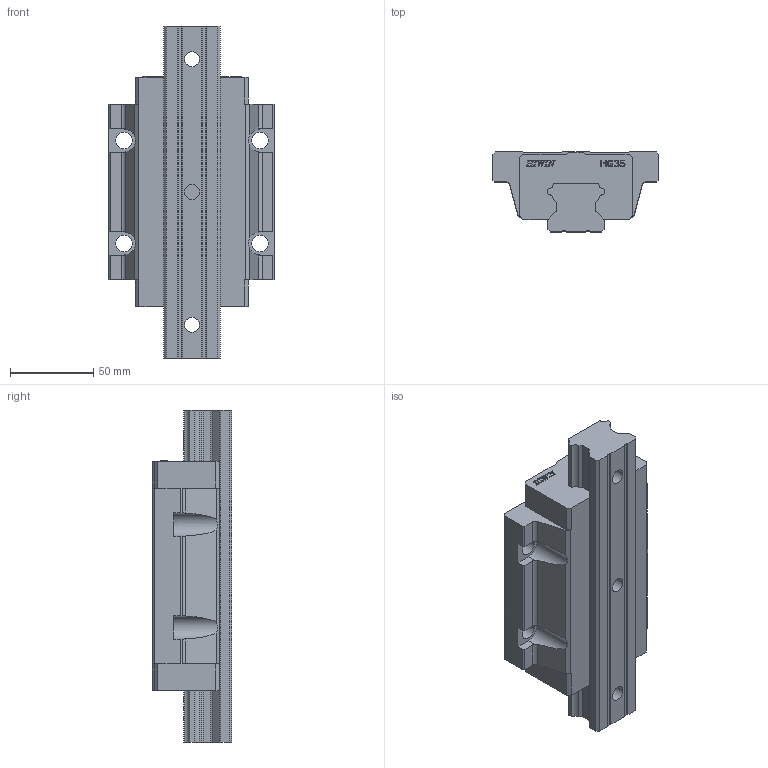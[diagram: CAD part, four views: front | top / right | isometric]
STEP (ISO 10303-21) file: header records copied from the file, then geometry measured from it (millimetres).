
FILE_DESCRIPTION((''),'2;1');
FILE_NAME('HGW35_ASM','2006-08-23T',('lansro'),(''),'PRO/ENGINEER BY PARAMETRIC TECHNOLOGY CORPORATION, 2004360','PRO/ENGINEER BY PARAMETRIC TECHNOLOGY CORPORATION, 2004360','');
FILE_SCHEMA(('CONFIG_CONTROL_DESIGN'));
Length unit declared in the file: millimetre
Products named in the file (3): HGW35; HGR35; HGW35_ASM
Assembly tree (2 placements, depth 2):
  HGW35_ASM
    HGW35
    HGR35
Bounding box: 100 x 48 x 200 mm (x, y, z)
Volume: 518679 mm3; surface area: 79864.5 mm2
Topology: 2 solids, 2 shells, 464 faces, 1344 edges, 896 vertices
Faces by surface type: plane 356, extrusion 60, cylinder 48
Entity records: 15526 total; most frequent: CARTESIAN_POINT 3354, ORIENTED_EDGE 2688, DIRECTION 2174, EDGE_CURVE 1344, VECTOR 1172, LINE 1112, VERTEX_POINT 896, AXIS2_PLACEMENT_3D 501
